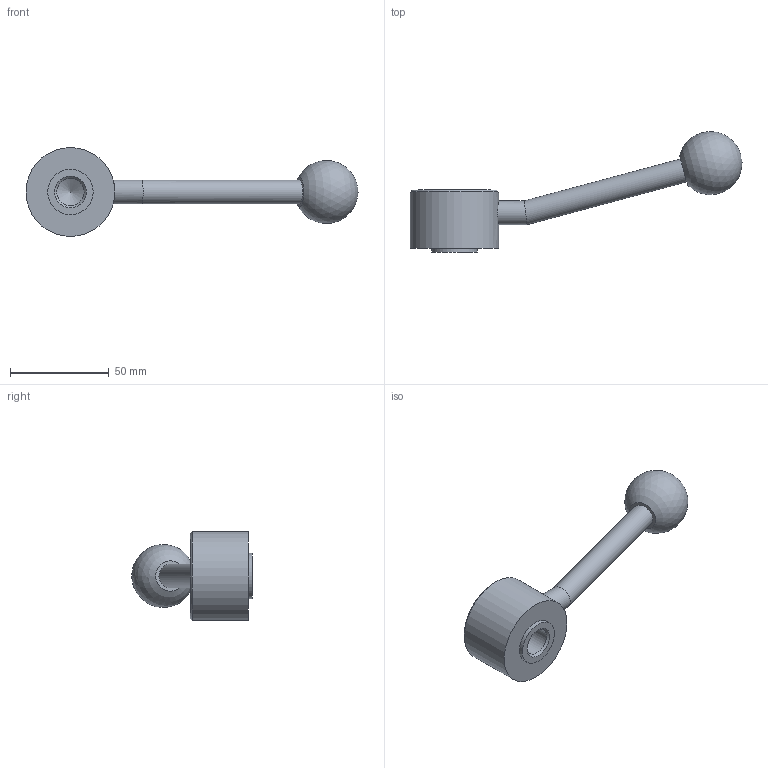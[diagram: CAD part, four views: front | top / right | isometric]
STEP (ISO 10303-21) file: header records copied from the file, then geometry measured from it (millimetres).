
FILE_DESCRIPTION( ( 'STEP AP203' ), '1' );
FILE_NAME( 'C:/Temp/Ganter_Step_05_03_2020/data/2_1/gn_125/gn_125_mb/gn_125_mb_e/Flat Adjustable Lever GN 125-45-M16-E.stp', '2020-03-05T11:00:43', ( 'License CC BY-ND 4.0' ), ( 'CADENAS' ), ' ', 'PARTsolutions', ' ' );
FILE_SCHEMA( ( 'CONFIG_CONTROL_DESIGN' ) );
Length unit declared in the file: millimetre
Products named in the file (1): _Flat Adjustable Lever GN 125-45-M16-E
Bounding box: 168.04 x 61.04 x 45 mm (x, y, z)
Volume: 71678.8 mm3; surface area: 15057.7 mm2
Topology: 1 solids, 1 shells, 15 faces, 27 edges, 17 vertices
Faces by surface type: cylinder 6, plane 5, cone 3, sphere 1
Full cylindrical faces by diameter (mm): 12 x2, 13.835 x1, 23 x1, 32 x1, 45 x1
Entity records: 426 total; most frequent: CARTESIAN_POINT 129, DIRECTION 58, AXIS2_PLACEMENT_3D 29, EDGE_LOOP 28, ORIENTED_EDGE 28, FACE_OUTER_BOUND 21, VERTEX_POINT 16, ADVANCED_FACE 15
